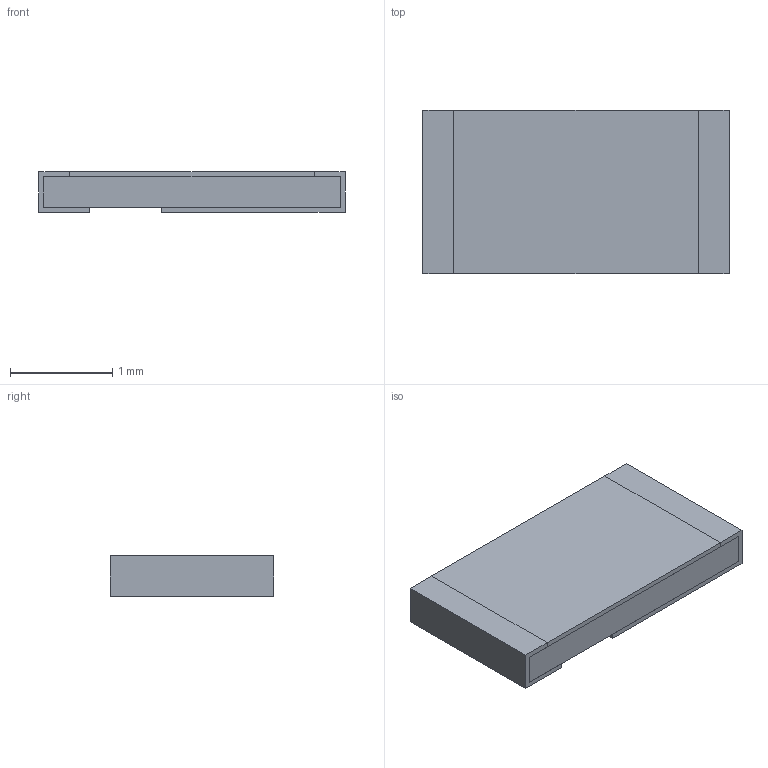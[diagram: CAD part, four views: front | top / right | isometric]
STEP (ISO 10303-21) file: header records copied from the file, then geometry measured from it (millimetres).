
FILE_DESCRIPTION(('STEP AP203'), '1');
FILE_NAME('栖闉罻', '', ('UNSPECIFIED'), ('UNSPECIFIED'), 'ASCON STEP Converter 1.6', 'ASCON Math Kernel', '');
FILE_SCHEMA(('CONFIG_CONTROL_DESIGN'));
Length unit declared in the file: millimetre
Assembly tree (1 placements, depth 2):
  (unnamed)
    (unnamed)
Bounding box: 3 x 1.6 x 0.4 mm (x, y, z)
Volume: 1.9 mm3; surface area: 32.9 mm2
Topology: 4 solids, 5 shells, 51 faces, 123 edges, 82 vertices
Faces by surface type: plane 47, cylinder 4
Entity records: 1987 total; most frequent: CARTESIAN_POINT 258, ORIENTED_EDGE 246, DIRECTION 237, EDGE_CURVE 123, LINE 115, VECTOR 115, VERTEX_POINT 82, AXIS2_PLACEMENT_3D 61
